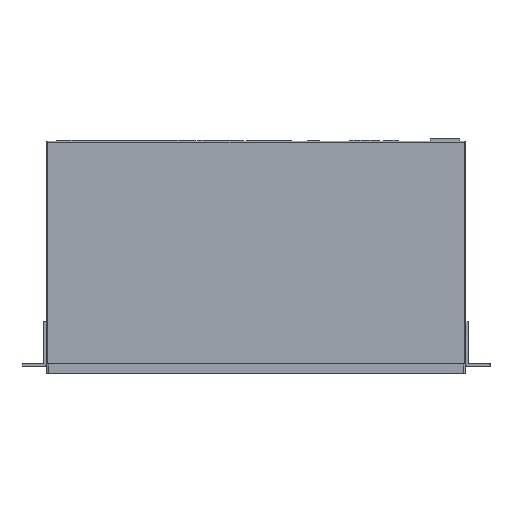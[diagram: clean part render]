
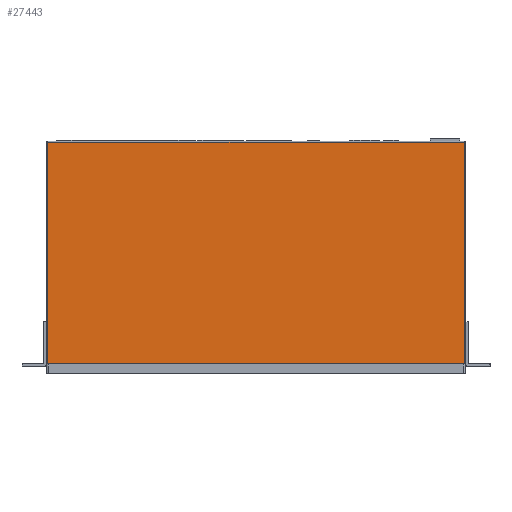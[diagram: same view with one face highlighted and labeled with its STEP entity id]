
A CAD part, top view. The second image highlights one B-rep face of the part: STEP entity #27443.
In plain terms, the highlighted planar face has unit normal (0, 0, 1).
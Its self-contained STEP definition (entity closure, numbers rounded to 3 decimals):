
#21586 = CYLINDRICAL_SURFACE('',#21587,1.);
#21587 = AXIS2_PLACEMENT_3D('',#21588,#21589,#21590);
#21588 = CARTESIAN_POINT('',(-216.5,114.,43.));
#21589 = DIRECTION('',(1.,0.,0.));
#21590 = DIRECTION('',(0.,1.,0.));
#23699 = VERTEX_POINT('',#23700);
#23700 = CARTESIAN_POINT('',(-215.5,114.,44.));
#23727 = EDGE_CURVE('',#23699,#23728,#23730,.T.);
#23728 = VERTEX_POINT('',#23729);
#23729 = CARTESIAN_POINT('',(215.5,114.,44.));
#23730 = SURFACE_CURVE('',#23731,(#23735,#23742),.PCURVE_S1.);
#23731 = LINE('',#23732,#23733);
#23732 = CARTESIAN_POINT('',(-216.5,114.,44.));
#23733 = VECTOR('',#23734,1.);
#23734 = DIRECTION('',(1.,0.,0.));
#23735 = PCURVE('',#21586,#23736);
#23736 = DEFINITIONAL_REPRESENTATION('',(#23737),#23741);
#23737 = LINE('',#23738,#23739);
#23738 = CARTESIAN_POINT('',(1.571,0.));
#23739 = VECTOR('',#23740,1.);
#23740 = DIRECTION('',(0.,1.));
#23741 = ( GEOMETRIC_REPRESENTATION_CONTEXT(2) 
PARAMETRIC_REPRESENTATION_CONTEXT() REPRESENTATION_CONTEXT('2D SPACE',''
  ) );
#23742 = PCURVE('',#23743,#23748);
#23743 = PLANE('',#23744);
#23744 = AXIS2_PLACEMENT_3D('',#23745,#23746,#23747);
#23745 = CARTESIAN_POINT('',(0.,0.,44.));
#23746 = DIRECTION('',(-0.,-0.,-1.));
#23747 = DIRECTION('',(-1.,0.,0.));
#23748 = DEFINITIONAL_REPRESENTATION('',(#23749),#23753);
#23749 = LINE('',#23750,#23751);
#23750 = CARTESIAN_POINT('',(216.5,114.));
#23751 = VECTOR('',#23752,1.);
#23752 = DIRECTION('',(-1.,0.));
#23753 = ( GEOMETRIC_REPRESENTATION_CONTEXT(2) 
PARAMETRIC_REPRESENTATION_CONTEXT() REPRESENTATION_CONTEXT('2D SPACE',''
  ) );
#27432 = CYLINDRICAL_SURFACE('',#27433,1.);
#27433 = AXIS2_PLACEMENT_3D('',#27434,#27435,#27436);
#27434 = CARTESIAN_POINT('',(-215.5,-115.,43.));
#27435 = DIRECTION('',(0.,1.,0.));
#27436 = DIRECTION('',(-1.,0.,0.));
#27443 = ADVANCED_FACE('',(#27444),#23743,.F.);
#27444 = FACE_BOUND('',#27445,.F.);
#27445 = EDGE_LOOP('',(#27446,#27476,#27497,#27498));
#27446 = ORIENTED_EDGE('',*,*,#27447,.T.);
#27447 = EDGE_CURVE('',#27448,#27450,#27452,.T.);
#27448 = VERTEX_POINT('',#27449);
#27449 = CARTESIAN_POINT('',(215.5,-115.,44.));
#27450 = VERTEX_POINT('',#27451);
#27451 = CARTESIAN_POINT('',(-215.5,-115.,44.));
#27452 = SURFACE_CURVE('',#27453,(#27457,#27464),.PCURVE_S1.);
#27453 = LINE('',#27454,#27455);
#27454 = CARTESIAN_POINT('',(216.5,-115.,44.));
#27455 = VECTOR('',#27456,1.);
#27456 = DIRECTION('',(-1.,0.,0.));
#27457 = PCURVE('',#23743,#27458);
#27458 = DEFINITIONAL_REPRESENTATION('',(#27459),#27463);
#27459 = LINE('',#27460,#27461);
#27460 = CARTESIAN_POINT('',(-216.5,-115.));
#27461 = VECTOR('',#27462,1.);
#27462 = DIRECTION('',(1.,0.));
#27463 = ( GEOMETRIC_REPRESENTATION_CONTEXT(2) 
PARAMETRIC_REPRESENTATION_CONTEXT() REPRESENTATION_CONTEXT('2D SPACE',''
  ) );
#27464 = PCURVE('',#27465,#27470);
#27465 = PLANE('',#27466);
#27466 = AXIS2_PLACEMENT_3D('',#27467,#27468,#27469);
#27467 = CARTESIAN_POINT('',(216.5,-115.,0.));
#27468 = DIRECTION('',(0.,-1.,0.));
#27469 = DIRECTION('',(-1.,0.,0.));
#27470 = DEFINITIONAL_REPRESENTATION('',(#27471),#27475);
#27471 = LINE('',#27472,#27473);
#27472 = CARTESIAN_POINT('',(0.,-44.));
#27473 = VECTOR('',#27474,1.);
#27474 = DIRECTION('',(1.,0.));
#27475 = ( GEOMETRIC_REPRESENTATION_CONTEXT(2) 
PARAMETRIC_REPRESENTATION_CONTEXT() REPRESENTATION_CONTEXT('2D SPACE',''
  ) );
#27476 = ORIENTED_EDGE('',*,*,#27477,.T.);
#27477 = EDGE_CURVE('',#27450,#23699,#27478,.T.);
#27478 = SURFACE_CURVE('',#27479,(#27483,#27490),.PCURVE_S1.);
#27479 = LINE('',#27480,#27481);
#27480 = CARTESIAN_POINT('',(-215.5,-115.,44.));
#27481 = VECTOR('',#27482,1.);
#27482 = DIRECTION('',(0.,1.,0.));
#27483 = PCURVE('',#23743,#27484);
#27484 = DEFINITIONAL_REPRESENTATION('',(#27485),#27489);
#27485 = LINE('',#27486,#27487);
#27486 = CARTESIAN_POINT('',(215.5,-115.));
#27487 = VECTOR('',#27488,1.);
#27488 = DIRECTION('',(0.,1.));
#27489 = ( GEOMETRIC_REPRESENTATION_CONTEXT(2) 
PARAMETRIC_REPRESENTATION_CONTEXT() REPRESENTATION_CONTEXT('2D SPACE',''
  ) );
#27490 = PCURVE('',#27432,#27491);
#27491 = DEFINITIONAL_REPRESENTATION('',(#27492),#27496);
#27492 = LINE('',#27493,#27494);
#27493 = CARTESIAN_POINT('',(1.571,0.));
#27494 = VECTOR('',#27495,1.);
#27495 = DIRECTION('',(0.,1.));
#27496 = ( GEOMETRIC_REPRESENTATION_CONTEXT(2) 
PARAMETRIC_REPRESENTATION_CONTEXT() REPRESENTATION_CONTEXT('2D SPACE',''
  ) );
#27497 = ORIENTED_EDGE('',*,*,#23727,.T.);
#27498 = ORIENTED_EDGE('',*,*,#27499,.T.);
#27499 = EDGE_CURVE('',#23728,#27448,#27500,.T.);
#27500 = SURFACE_CURVE('',#27501,(#27505,#27512),.PCURVE_S1.);
#27501 = LINE('',#27502,#27503);
#27502 = CARTESIAN_POINT('',(215.5,115.,44.));
#27503 = VECTOR('',#27504,1.);
#27504 = DIRECTION('',(0.,-1.,0.));
#27505 = PCURVE('',#23743,#27506);
#27506 = DEFINITIONAL_REPRESENTATION('',(#27507),#27511);
#27507 = LINE('',#27508,#27509);
#27508 = CARTESIAN_POINT('',(-215.5,115.));
#27509 = VECTOR('',#27510,1.);
#27510 = DIRECTION('',(0.,-1.));
#27511 = ( GEOMETRIC_REPRESENTATION_CONTEXT(2) 
PARAMETRIC_REPRESENTATION_CONTEXT() REPRESENTATION_CONTEXT('2D SPACE',''
  ) );
#27512 = PCURVE('',#27513,#27518);
#27513 = CYLINDRICAL_SURFACE('',#27514,1.);
#27514 = AXIS2_PLACEMENT_3D('',#27515,#27516,#27517);
#27515 = CARTESIAN_POINT('',(215.5,115.,43.));
#27516 = DIRECTION('',(0.,-1.,0.));
#27517 = DIRECTION('',(0.,0.,1.));
#27518 = DEFINITIONAL_REPRESENTATION('',(#27519),#27523);
#27519 = LINE('',#27520,#27521);
#27520 = CARTESIAN_POINT('',(-0.,0.));
#27521 = VECTOR('',#27522,1.);
#27522 = DIRECTION('',(-0.,1.));
#27523 = ( GEOMETRIC_REPRESENTATION_CONTEXT(2) 
PARAMETRIC_REPRESENTATION_CONTEXT() REPRESENTATION_CONTEXT('2D SPACE',''
  ) );
